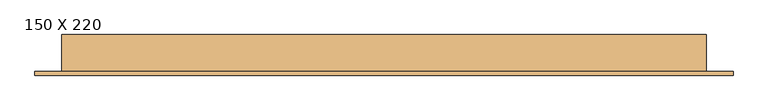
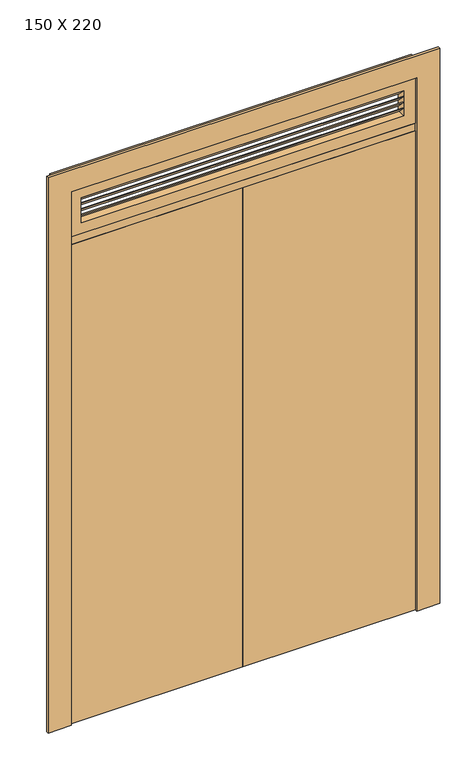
"""IFC4 building model written with IfcOpenShell, lengths in millimetres: door geometry, PORTA DE ABRIR PARA FORA - 2 FOLHAS + BANDEIRA VENEZIANA FIXA - 1 FOLHA : 150 X 220."""

from ifc_helpers import new_model, si_unit, frame, origin, origin_with_axes, place, context, project, spatial, polyline, outline, extrude, source, transform, mapped, element, save


def door_150_x_220_da17bf78(model_context):
    return source(origin(), model_context, "Body", "SweptSolid", [
        extrude(outline(polyline([(80.0, -35.0), (830.0, -35.0), (830.0, -75.0), (80.0, -75.0), (80.0, -35.0)])), origin_with_axes(), (0.0, 0.0, 1.0), 2200.0),
        extrude(outline(polyline([(80.0, -35.0), (80.0, -75.0), (-670.0, -75.0), (-670.0, -35.0), (80.0, -35.0)])), origin_with_axes(), (0.0, 0.0, 1.0), 2200.0),
        extrude(outline(polyline([(-40.0, 2338.3333333), (-75.0, 2373.3333333), (-70.0, 2373.3333333), (-35.0, 2338.3333333), (-40.0, 2338.3333333)])), frame((-620.0, 0.0, 0.0), z_axis=(1.0, 0.0, 0.0), x_axis=(0.0, 1.0, 0.0)), (0.0, 0.0, 1.0), 1400.0),
        extrude(outline(polyline([(-40.0, 2311.6666667), (-75.0, 2346.6666667), (-70.0, 2346.6666667), (-35.0, 2311.6666667), (-40.0, 2311.6666667)])), frame((-620.0, 0.0, 0.0), z_axis=(1.0, 0.0, 0.0), x_axis=(0.0, 1.0, 0.0)), (0.0, 0.0, 1.0), 1400.0),
        extrude(outline(polyline([(-40.0, 2365.0), (-75.0, 2400.0), (-70.0, 2400.0), (-35.0, 2365.0), (-40.0, 2365.0)])), frame((-620.0, 0.0, 0.0), z_axis=(1.0, 0.0, 0.0), x_axis=(0.0, 1.0, 0.0)), (0.0, 0.0, 1.0), 1400.0),
        extrude(outline(polyline([(-40.0, 2285.0), (-75.0, 2320.0), (-70.0, 2320.0), (-35.0, 2285.0), (-40.0, 2285.0)])), frame((-620.0, 0.0, 0.0), z_axis=(1.0, 0.0, 0.0), x_axis=(0.0, 1.0, 0.0)), (0.0, 0.0, 1.0), 1400.0),
        extrude(outline(polyline([(2450.0, 830.0), (2450.0, -670.0), (2235.0, -670.0), (2235.0, 830.0), (2450.0, 830.0)]), holes=[polyline([(2400.0, 780.0), (2285.0, 780.0), (2285.0, -620.0), (2400.0, -620.0), (2400.0, 780.0)])]), frame((0.0, -75.0, 0.0), z_axis=(0.0, 1.0, 0.0), x_axis=(0.0, 0.0, 1.0)), (0.0, 0.0, 1.0), 40.0),
        extrude(outline(polyline([(2450.0, -670.0), (2450.0, 830.0), (0.0, 830.0), (0.0, 930.0), (2550.0, 930.0), (2550.0, -770.0), (0.0, -770.0), (0.0, -670.0), (2450.0, -670.0)])), frame((0.0, -85.0, 0.0), z_axis=(0.0, 1.0, 0.0), x_axis=(0.0, 0.0, 1.0)), (0.0, 0.0, 1.0), 10.0),
        extrude(outline(polyline([(0.0, -705.0), (0.0, -670.0), (2200.0, -670.0), (2200.0, 830.0), (0.0, 830.0), (0.0, 865.0), (2485.0, 865.0), (2485.0, -705.0), (0.0, -705.0)]), holes=[polyline([(2235.0, 830.0), (2235.0, -670.0), (2450.0, -670.0), (2450.0, 830.0), (2235.0, 830.0)])]), frame((0.0, -75.0, 0.0), z_axis=(0.0, 1.0, 0.0), x_axis=(0.0, 0.0, 1.0)), (0.0, 0.0, 1.0), 90.0),
    ])


if __name__ == "__main__":
    model = new_model("IFC4")
    model_context = context("Model", 3, world=origin())
    ifc_project = project(units=[si_unit("LENGTHUNIT", "METRE", prefix="MILLI")], contexts=[model_context])
    site = spatial("IfcSite", under=ifc_project)
    building = spatial("IfcBuilding", under=site)
    placement = place(None, origin())
    door_150_x_220_shape = door_150_x_220_da17bf78(model_context)
    element("IfcDoor", 1, ObjectType="PORTA DE ABRIR PARA FORA - 2 FOLHAS + BANDEIRA VENEZIANA FIXA - 1 FOLHA : 150 X 220", at=placement, inside=building, context=model_context, shape_type="MappedRepresentation", body=[
        mapped(door_150_x_220_shape, transform((0.0, 0.0, 0.0), x_axis=(1.0, 0.0, 0.0), y_axis=(0.0, 1.0, 0.0), z_axis=(0.0, 0.0, 1.0))),
    ])
    save(model, "model.ifc")
